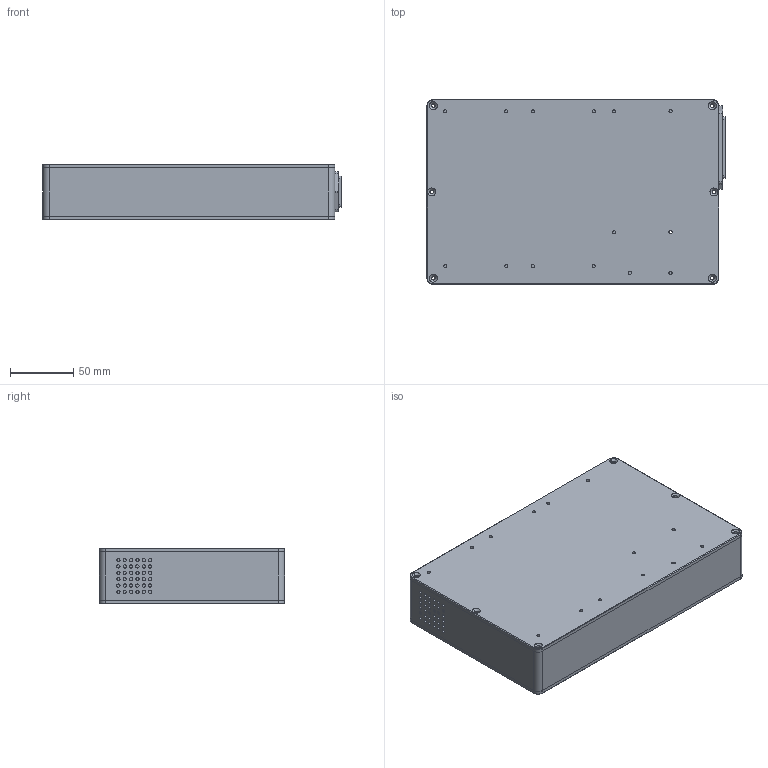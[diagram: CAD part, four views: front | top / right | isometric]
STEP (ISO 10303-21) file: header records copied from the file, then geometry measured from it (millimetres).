
FILE_DESCRIPTION (( 'STEP AP214' ), '1' );
FILE_NAME ('三路电源模块.STEP', '2026-03-09T02:24:21', ( 'Windows User' ), ( 'P R C' ), 'SwSTEP 2.0', 'SolidWorks 2023', '' );
FILE_SCHEMA (( 'AUTOMOTIVE_DESIGN' ));
Length unit declared in the file: millimetre
Products named in the file (9): 电源底板S; PFC电源—12V10AS; PFC电源—24VS; 电源盖板DM; 4010-1QW-HY; L005-电源滤波器（扁）ACS; 三路电源模块; PFC电源—36VS; 230X146型材壳体-电源S
Assembly tree (8 placements, depth 2):
  三路电源模块
    PFC电源—36VS
    230X146型材壳体-电源S
    PFC电源—24VS
    PFC电源—12V10AS
    电源底板S
    L005-电源滤波器（扁）ACS
    4010-1QW-HY
    电源盖板DM
Bounding box: 235 x 146 x 44 mm (x, y, z)
Volume: 478082.1 mm3; surface area: 302367 mm2
Topology: 9 solids, 9 shells, 827 faces, 2267 edges, 1468 vertices
Faces by surface type: cylinder 421, plane 260, bspline 112, cone 32, torus 2
Entity records: 33667 total; most frequent: CARTESIAN_POINT 11882, ORIENTED_EDGE 4534, DIRECTION 4434, EDGE_CURVE 2267, AXIS2_PLACEMENT_3D 1669, VERTEX_POINT 1468, EDGE_LOOP 1103, LINE 1096
